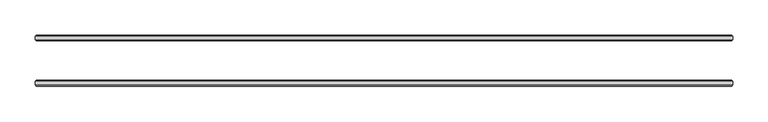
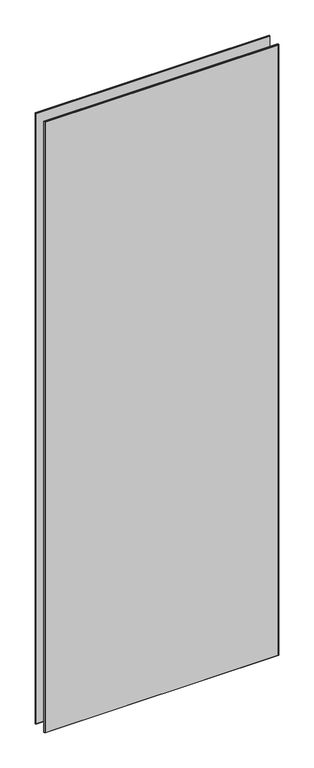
"""IFC4 building model written with IfcOpenShell, lengths in millimetres: plate geometry, 3-AMG-2-Панель двойной витраж 8, 10 : Смещение 32 Толщина 8mm."""

from ifc_helpers import new_model, si_unit, origin, place, context, project, spatial, faceted_brep, source, transform, mapped, element, save


def plate_2adcd878(model_context):
    return source(origin(), model_context, "Body", "Brep", [
        faceted_brep([(491.9348019, -34.4961653, 2722.8), (491.9348019, -29.5038347, 2722.8), (-496.9348019, -29.5038347, 2722.8), (-496.9348019, -34.4961653, 2722.8), (491.9348019, -29.5038347, -7.0), (491.9348019, -34.4961653, -7.0), (-496.9348019, -34.4961653, -7.0), (-496.9348019, -29.5038347, -7.0), (-495.4309671, -28.0, 2721.2961653), (490.4309671, -28.0, 2721.2961653), (490.4309671, -28.0, -5.5039422), (-495.4309671, -28.0, -5.5039422), (490.4309671, -36.0, 2721.2961653), (-495.4309671, -36.0, 2721.2961653), (-495.4309671, -36.0, -5.4961653), (490.4309671, -36.0, -5.4961653)], [[[0, 1, 2, 3]], [[4, 5, 6, 7]], [[8, 9, 10, 11]], [[3, 2, 7, 6]], [[12, 13, 14, 15]], [[1, 0, 5, 4]], [[1, 4, 10, 9]], [[5, 0, 12, 15]], [[0, 3, 13, 12]], [[2, 1, 9, 8]], [[7, 2, 8, 11]], [[3, 6, 14, 13]], [[6, 5, 15, 14]], [[4, 7, 11, 10]]]),
        faceted_brep([(491.9348019, 29.5038347, 2722.8), (491.9348019, 34.4961653, 2722.8), (-496.9348019, 34.4961653, 2722.8), (-496.9348019, 29.5038347, 2722.8), (491.9348019, 34.4961653, -7.0), (491.9348019, 29.5038347, -7.0), (-496.9348019, 29.5038347, -7.0), (-496.9348019, 34.4961653, -7.0), (-495.4309671, 36.0, 2721.2961653), (490.4309671, 36.0, 2721.2961653), (490.4309671, 36.0, -5.5039422), (-495.4309671, 36.0, -5.5039422), (490.4309671, 28.0, 2721.2961653), (-495.4309671, 28.0, 2721.2961653), (-495.4309671, 28.0, -5.4961653), (490.4309671, 28.0, -5.4961653)], [[[0, 1, 2, 3]], [[4, 5, 6, 7]], [[8, 9, 10, 11]], [[3, 2, 7, 6]], [[12, 13, 14, 15]], [[1, 0, 5, 4]], [[1, 4, 10, 9]], [[5, 0, 12, 15]], [[7, 2, 8, 11]], [[3, 6, 14, 13]], [[0, 3, 13, 12]], [[2, 1, 9, 8]], [[6, 5, 15, 14]], [[4, 7, 11, 10]]]),
    ])


if __name__ == "__main__":
    model = new_model("IFC4")
    model_context = context("Model", 3, world=origin())
    ifc_project = project(units=[si_unit("LENGTHUNIT", "METRE", prefix="MILLI")], contexts=[model_context])
    site = spatial("IfcSite", under=ifc_project)
    building = spatial("IfcBuilding", under=site)
    placement = place(None, origin())
    plate_shape = plate_2adcd878(model_context)
    element("IfcPlate", 1, ObjectType="3-AMG-2-Панель двойной витраж 8, 10 : Смещение 32 Толщина 8mm", at=placement, inside=building, context=model_context, shape_type="MappedRepresentation", body=[
        mapped(plate_shape, transform((0.0, 0.0, 0.0), x_axis=(1.0, 0.0, 0.0), y_axis=(0.0, 1.0, 0.0), z_axis=(0.0, 0.0, 1.0))),
    ])
    save(model, "model.ifc")
